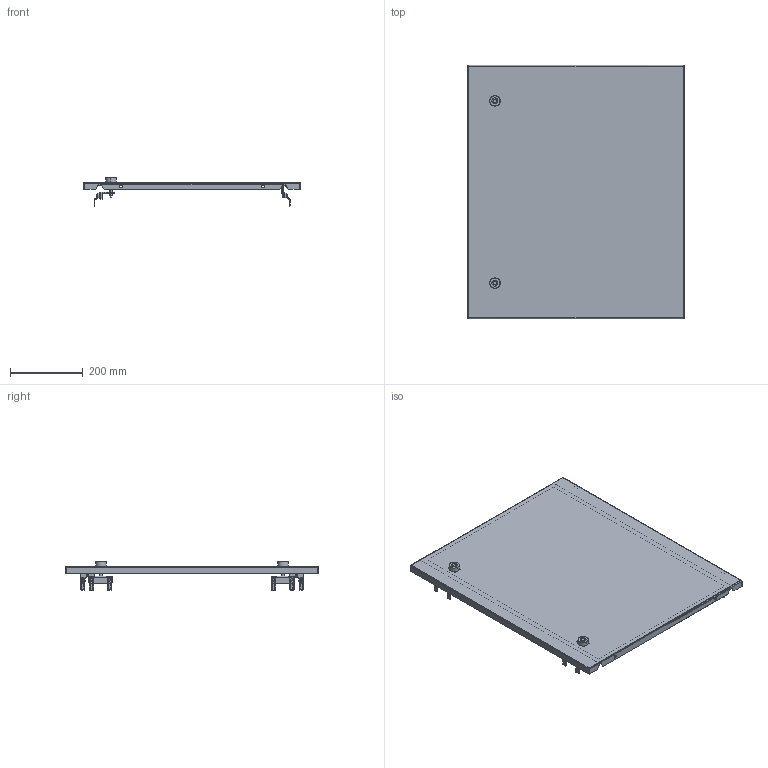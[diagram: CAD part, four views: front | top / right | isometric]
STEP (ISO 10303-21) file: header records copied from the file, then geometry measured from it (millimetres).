
FILE_DESCRIPTION(('CAx-IF Rec.Pracs.---Model Styling and Organization---1.2---2011-12-15','CAx-IF Rec.Pracs.---Geometric and Assembly Validation Properties---4.1---2014-06-16','CAx-IF Rec.Pracs.---PMI Polyline Presentation---2.0---2013-05-24'),'2;1');
FILE_NAME('R5CPMEM6700.stp','2021-05-06T03:54:31+03:00',(''),(''),'STEP Interface 4.4 by CT CoreTechnologie','3D_Evolution4.4 by CT CoreTechnologie','');
FILE_SCHEMA(('AUTOMOTIVE_DESIGN { 1 0 10303 214 1 1 1 1 }'));
Length unit declared in the file: millimetre
Products named in the file (18): R5CPMEM6700; RB.0116.00.00.2_-00; M6 x 16-DIN 7991 ISR_thread; AC00C485; MS737-1-1(1); MS737-1-1 Z_ ªàëâ; MS737-1-1 stop_fixed; M6 x 16-DIN 7991 ISR_stright; RB.0687.00.00.1; AC00C745; MS737-1-1(2); RB.0556.00.00.3 ÑÁ_-33; AC00C266; Ì6õ12-A5100231_thread; Ì6õ12-A5100231_straight; AC00C061_AC00C061; RB.0556.00.01.1_-33; PF 7x14 R5PKEB_0700x0600
Assembly tree (39 placements, depth 3):
  R5CPMEM6700
    RB.0116.00.00.2_-00  x2
    M6 x 16-DIN 7991 ISR_thread  x4
    AC00C485  x8
    MS737-1-1(1)
      MS737-1-1 Z_ ªàëâ
      MS737-1-1 stop_fixed
    M6 x 16-DIN 7991 ISR_stright  x4
    RB.0687.00.00.1  x2
    AC00C745  x2
    MS737-1-1(2)
      MS737-1-1 stop_fixed
      MS737-1-1 Z_ ªàëâ
    RB.0556.00.00.3 ÑÁ_-33
      AC00C266  x2
      Ì6õ12-A5100231_thread  x2
      Ì6õ12-A5100231_straight
      AC00C061_AC00C061  x3
      RB.0556.00.01.1_-33
      PF 7x14 R5PKEB_0700x0600
Bounding box: 594 x 695 x 77.95 mm (x, y, z)
Surface area: 1066988.6 mm2 (no closed solid volume)
Topology: 0 solids, 58 shells, 2312 faces, 6056 edges, 3846 vertices
Faces by surface type: bspline 860, cylinder 760, plane 692
Entity records: 35240 total; most frequent: CARTESIAN_POINT 11718, ORIENTED_EDGE 4926, DIRECTION 4578, EDGE_CURVE 2463, AXIS2_PLACEMENT_3D 1666, VERTEX_POINT 1590, VECTOR 1246, LINE 1246
